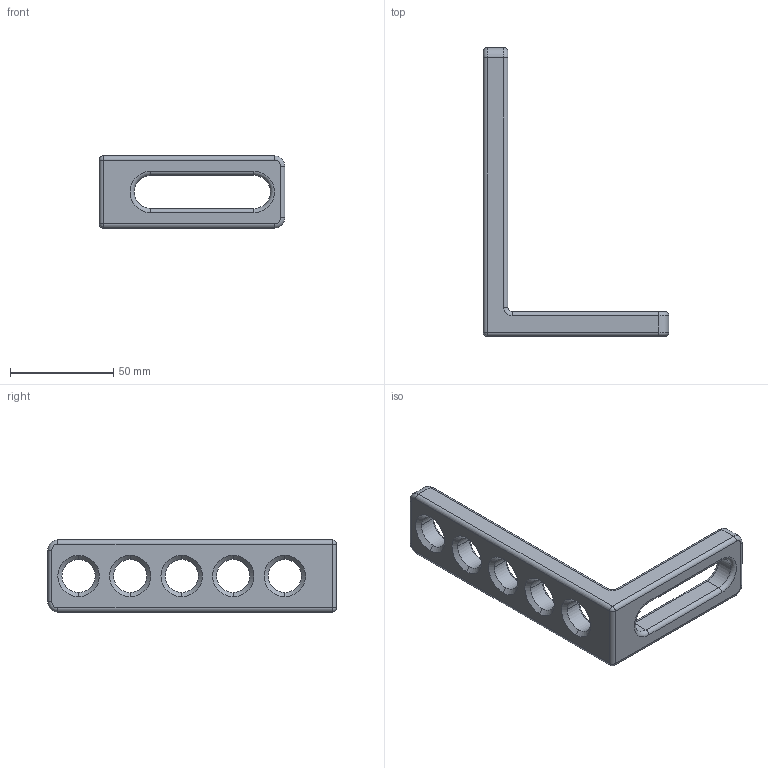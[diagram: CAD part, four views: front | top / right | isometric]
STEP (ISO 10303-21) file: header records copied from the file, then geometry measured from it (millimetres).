
FILE_DESCRIPTION (( 'STEP AP203' ), '1' );
FILE_NAME ('160112_140 LL.step', '2014-08-08T10:20:48', ( 'User' ), ( '' ), 'SwSTEP 2.0', 'SolidWorks 2014', '' );
FILE_SCHEMA (( 'CONFIG_CONTROL_DESIGN' ));
Length unit declared in the file: millimetre
Products named in the file (1): 160112_140 LL
Bounding box: 90 x 140 x 35 mm (x, y, z)
Volume: 64779.6 mm3; surface area: 20264.7 mm2
Topology: 1 solids, 1 shells, 82 faces, 208 edges, 126 vertices
Faces by surface type: cylinder 35, cone 20, torus 15, plane 10, sphere 2
Entity records: 2586 total; most frequent: DIRECTION 499, CARTESIAN_POINT 415, ORIENTED_EDGE 412, AXIS2_PLACEMENT_3D 210, EDGE_CURVE 206, CIRCLE 127, VERTEX_POINT 126, EDGE_LOOP 94
